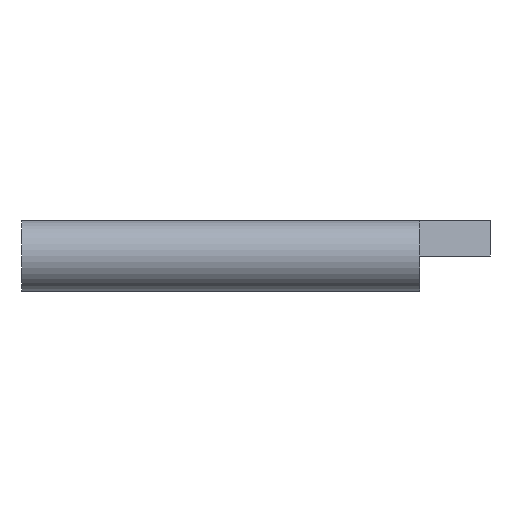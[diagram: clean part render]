
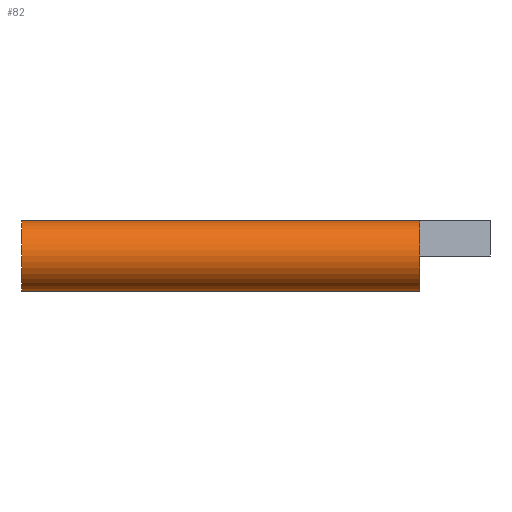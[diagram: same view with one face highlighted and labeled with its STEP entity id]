
A CAD part, front view. The second image highlights one B-rep face of the part: STEP entity #82.
In plain terms, the highlighted cylindrical face has radius 1.5 mm (diameter 3 mm), a partial arc.
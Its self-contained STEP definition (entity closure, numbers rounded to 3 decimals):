
#82=ADVANCED_FACE('',(#127),#128,.T.);
#127=FACE_OUTER_BOUND('',#175,.T.);
#128=CYLINDRICAL_SURFACE('',#176,1.5);
#175=EDGE_LOOP('',(#340,#341,#342,#343));
#176=AXIS2_PLACEMENT_3D('',#344,#345,#346);
#340=ORIENTED_EDGE('',*,*,#415,.F.);
#341=ORIENTED_EDGE('',*,*,#416,.T.);
#342=ORIENTED_EDGE('',*,*,#417,.F.);
#343=ORIENTED_EDGE('',*,*,#418,.T.);
#344=CARTESIAN_POINT('',(28.094,-68.601,19.5));
#345=DIRECTION('',(-1.0,0.,0.));
#346=DIRECTION('',(0.,0.0,-1.0));
#415=EDGE_CURVE('',#502,#503,#504,.T.);
#416=EDGE_CURVE('',#502,#505,#506,.T.);
#417=EDGE_CURVE('',#507,#505,#508,.T.);
#418=EDGE_CURVE('',#507,#503,#509,.T.);
#502=VERTEX_POINT('',#638);
#503=VERTEX_POINT('',#639);
#504=LINE('',#640,#641);
#505=VERTEX_POINT('',#642);
#506=CIRCLE('',#643,1.5);
#507=VERTEX_POINT('',#644);
#508=LINE('',#645,#646);
#509=CIRCLE('',#647,1.5);
#638=CARTESIAN_POINT('',(28.094,-68.601,18.));
#639=CARTESIAN_POINT('',(11.094,-68.601,18.));
#640=CARTESIAN_POINT('',(28.094,-68.601,18.));
#641=VECTOR('',#707,1.0);
#642=CARTESIAN_POINT('',(28.094,-68.601,21.));
#643=AXIS2_PLACEMENT_3D('',#708,#709,#710);
#644=CARTESIAN_POINT('',(11.094,-68.601,21.));
#645=CARTESIAN_POINT('',(28.094,-68.601,21.));
#646=VECTOR('',#711,1.0);
#647=AXIS2_PLACEMENT_3D('',#712,#713,#714);
#707=DIRECTION('',(-1.0,0.,0.));
#708=CARTESIAN_POINT('',(28.094,-68.601,19.5));
#709=DIRECTION('',(-1.0,0.,0.));
#710=DIRECTION('',(0.,0.0,-1.0));
#711=DIRECTION('',(1.0,0.,0.));
#712=CARTESIAN_POINT('',(11.094,-68.601,19.5));
#713=DIRECTION('',(1.0,0.,0.));
#714=DIRECTION('',(0.,0.0,-1.0));
